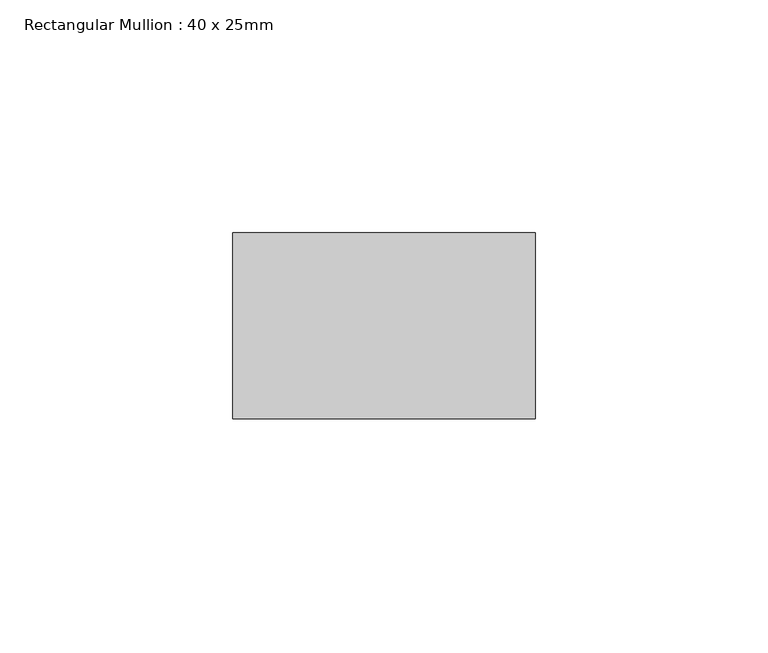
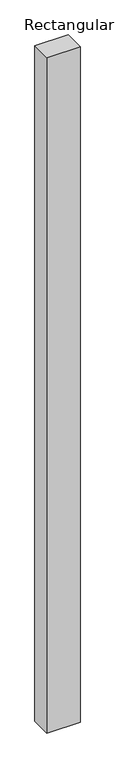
"""IFC4 building model written with IfcOpenShell, lengths in millimetres: member geometry, Rectangular Mullion : 40 x 25mm."""

from ifc_helpers import new_model, si_unit, frame, origin, place, context, project, spatial, polyline, outline, extrude, source, transform, mapped, element, save


def rectangular_mullion_40_x_25mm_97995a21(model_context):
    return source(origin(), model_context, "Body", "SweptSolid", [
        extrude(outline(polyline([(0.0, -20.0), (0.0, -60.0), (-65.0, -60.0), (-65.0, -20.0), (0.0, -20.0)])), frame((0.0, 0.0, -1393.5796522), z_axis=(0.0, 0.0, 1.0), x_axis=(1.0, 0.0, 0.0)), (0.0, 0.0, 1.0), 1393.5796522),
    ])


if __name__ == "__main__":
    model = new_model("IFC4")
    model_context = context("Model", 3, world=origin())
    ifc_project = project(units=[si_unit("LENGTHUNIT", "METRE", prefix="MILLI")], contexts=[model_context])
    site = spatial("IfcSite", under=ifc_project)
    building = spatial("IfcBuilding", under=site)
    placement = place(None, origin())
    rectangular_mullion_40_x_25mm_shape = rectangular_mullion_40_x_25mm_97995a21(model_context)
    element("IfcMember", 1, ObjectType="Rectangular Mullion : 40 x 25mm", at=placement, inside=building, context=model_context, shape_type="MappedRepresentation", body=[
        mapped(rectangular_mullion_40_x_25mm_shape, transform((0.0, 0.0, 0.0), x_axis=(1.0, 0.0, 0.0), y_axis=(0.0, 1.0, 0.0), z_axis=(0.0, 0.0, 1.0))),
    ])
    save(model, "model.ifc")
